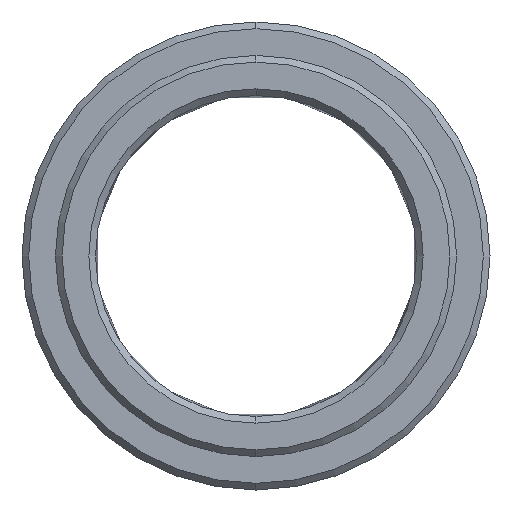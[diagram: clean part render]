
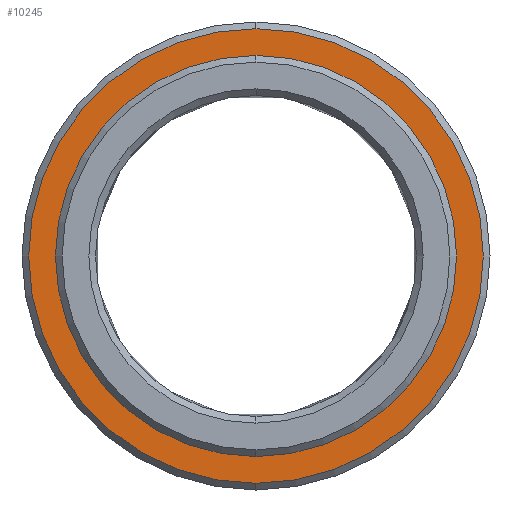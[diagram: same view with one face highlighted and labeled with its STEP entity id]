
A CAD part, left-side view. The second image highlights one B-rep face of the part: STEP entity #10245.
In plain terms, the highlighted planar face has unit normal (-1, 0, 0).
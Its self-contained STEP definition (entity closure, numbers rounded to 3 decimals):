
#6756=CARTESIAN_POINT('',(0.,0.,0.));
#6757=DIRECTION('',(1.,0.,0.));
#6758=DIRECTION('',(0.,0.,1.));
#6759=AXIS2_PLACEMENT_3D('',#6756,#6757,#6758);
#6761=CARTESIAN_POINT('',(0.,0.,0.));
#6762=DIRECTION('',(-1.,0.,0.));
#6763=DIRECTION('',(0.,0.,1.));
#6764=AXIS2_PLACEMENT_3D('',#6761,#6762,#6763);
#6766=CARTESIAN_POINT('',(0.,0.,
0.));
#6767=DIRECTION('',(1.,0.,0.));
#6768=DIRECTION('',(0.,0.,-1.));
#6769=AXIS2_PLACEMENT_3D('',#6766,#6767,#6768);
#6771=CARTESIAN_POINT('',(0.,0.,
0.));
#6772=DIRECTION('',(1.,0.,0.));
#6773=DIRECTION('',(0.,0.,1.));
#6774=AXIS2_PLACEMENT_3D('',#6771,#6772,#6773);
#7038=CARTESIAN_POINT('',(0.,0.,-17.));
#7039=CARTESIAN_POINT('',(0.,0.,17.));
#7040=VERTEX_POINT('',#7038);
#7041=VERTEX_POINT('',#7039);
#7258=CARTESIAN_POINT('',(0.,0.,15.));
#7259=CARTESIAN_POINT('',(0.,0.,-15.));
#7260=VERTEX_POINT('',#7258);
#7261=VERTEX_POINT('',#7259);
#10230=CARTESIAN_POINT('',(0.,0.,0.));
#10231=DIRECTION('',(1.,0.,0.));
#10232=DIRECTION('',(0.,0.,1.));
#10233=AXIS2_PLACEMENT_3D('',#10230,#10231,#10232);
#10234=PLANE('',#10233);
#10235=ORIENTED_EDGE('',*,*,#10210,.T.);
#10236=ORIENTED_EDGE('',*,*,#10224,.T.);
#10237=EDGE_LOOP('',(#10235,#10236));
#10238=FACE_OUTER_BOUND('',#10237,.F.);
#10240=ORIENTED_EDGE('',*,*,#10239,.F.);
#10242=ORIENTED_EDGE('',*,*,#10241,.T.);
#10243=EDGE_LOOP('',(#10240,#10242));
#10244=FACE_BOUND('',#10243,.F.);
#10245=ADVANCED_FACE('',(#10238,#10244),#10234,.F.);
#6760=CIRCLE('',#6759,15.);
#6765=CIRCLE('',#6764,15.);
#6770=CIRCLE('',#6769,17.);
#6775=CIRCLE('',#6774,17.);
#10210=EDGE_CURVE('',#7040,#7041,#6770,.T.);
#10224=EDGE_CURVE('',#7041,#7040,#6775,.T.);
#10239=EDGE_CURVE('',#7260,#7261,#6760,.T.);
#10241=EDGE_CURVE('',#7260,#7261,#6765,.T.);
